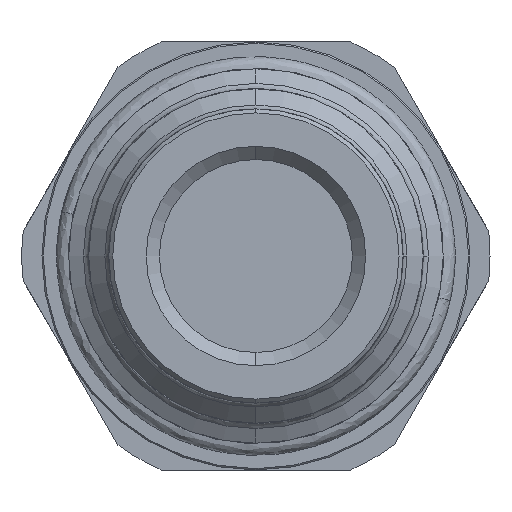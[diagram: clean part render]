
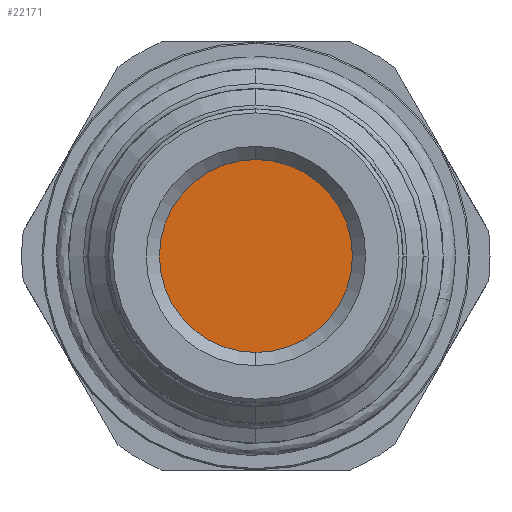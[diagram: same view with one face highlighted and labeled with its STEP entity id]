
A CAD part, front view. The second image highlights one B-rep face of the part: STEP entity #22171.
In plain terms, the highlighted planar face has unit normal (0, -1, 0).
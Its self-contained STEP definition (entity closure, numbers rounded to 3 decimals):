
#415 = CARTESIAN_POINT ( 'NONE',  ( 0., -0.672, 7.214 ) ) ;
#446 = DIRECTION ( 'NONE',  ( 0., -1., 0. ) ) ;
#2190 = DIRECTION ( 'NONE',  ( 0., 0., -1. ) ) ;
#2237 = DIRECTION ( 'NONE',  ( 0., -1., 0. ) ) ;
#3359 = CIRCLE ( 'NONE', #17718, 7.214 ) ;
#3604 = CARTESIAN_POINT ( 'NONE',  ( 8.071, -0.672, 0. ) ) ;
#4168 = VERTEX_POINT ( 'NONE', #415 ) ;
#4808 = EDGE_LOOP ( 'NONE', ( #16825, #11559 ) ) ;
#5286 = DIRECTION ( 'NONE',  ( 0., -1., 0. ) ) ;
#5499 = PLANE ( 'NONE',  #13175 ) ;
#5679 = DIRECTION ( 'NONE',  ( 0., 0., -1. ) ) ;
#9228 = CARTESIAN_POINT ( 'NONE',  ( 0., -0.672, 0. ) ) ;
#11559 = ORIENTED_EDGE ( 'NONE', *, *, #16767, .T. ) ;
#12861 = CARTESIAN_POINT ( 'NONE',  ( 0., -0.672, 0. ) ) ;
#13175 = AXIS2_PLACEMENT_3D ( 'NONE', #3604, #5286, #19588 ) ;
#16661 = CARTESIAN_POINT ( 'NONE',  ( 0., -0.672, -7.214 ) ) ;
#16767 = EDGE_CURVE ( 'NONE', #4168, #16997, #19152, .T. ) ;
#16825 = ORIENTED_EDGE ( 'NONE', *, *, #18618, .T. ) ;
#16927 = FACE_OUTER_BOUND ( 'NONE', #4808, .T. ) ;
#16997 = VERTEX_POINT ( 'NONE', #16661 ) ;
#17718 = AXIS2_PLACEMENT_3D ( 'NONE', #12861, #2237, #5679 ) ;
#18618 = EDGE_CURVE ( 'NONE', #16997, #4168, #3359, .T. ) ;
#19152 = CIRCLE ( 'NONE', #19166, 7.214 ) ;
#19166 = AXIS2_PLACEMENT_3D ( 'NONE', #9228, #446, #2190 ) ;
#19588 = DIRECTION ( 'NONE',  ( 0., 0., -1. ) ) ;
#22171 = ADVANCED_FACE ( 'NONE', ( #16927 ), #5499, .T. ) ;
